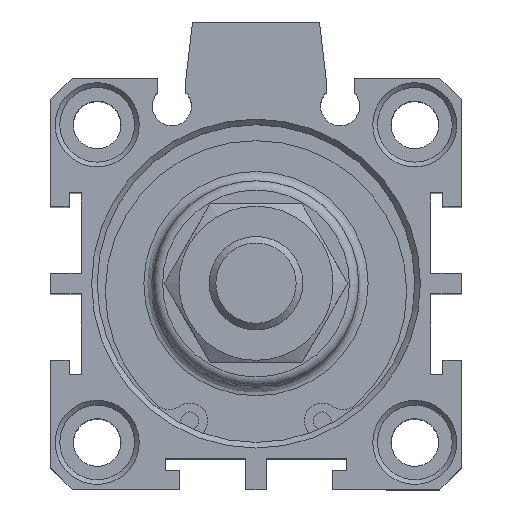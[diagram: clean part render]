
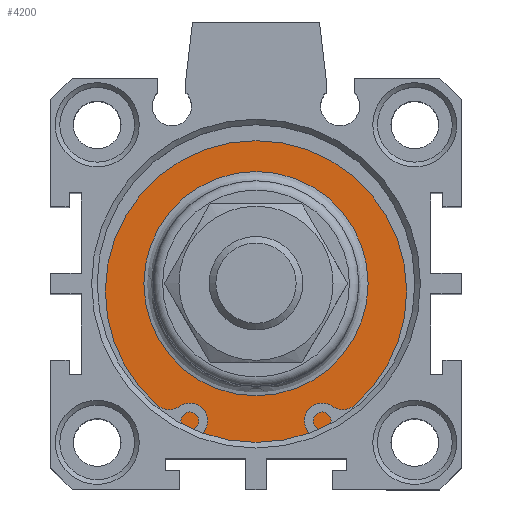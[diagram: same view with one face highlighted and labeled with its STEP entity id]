
A CAD part, top view. The second image highlights one B-rep face of the part: STEP entity #4200.
In plain terms, the highlighted planar face has unit normal (0, 0, 1).
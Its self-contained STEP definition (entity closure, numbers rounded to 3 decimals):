
#4149=CARTESIAN_POINT('',(2.273,12.598,50.8));
#4150=VERTEX_POINT('',#4149);
#4151=CARTESIAN_POINT('',(2.273,0.598,50.8));
#4152=DIRECTION('',(0.0,0.0,1.0));
#4153=DIRECTION('',(0.0,-1.0,0.0));
#4154=AXIS2_PLACEMENT_3D('',#4151,#4152,#4153);
#4155=CIRCLE('',#4154,12.0);
#4156=EDGE_CURVE('',#4150,#4150,#4155,.T.);
#4181=CARTESIAN_POINT('',(2.273,14.598,50.8));
#4182=DIRECTION('',(0.0,0.0,1.0));
#4183=DIRECTION('',(1.0,0.0,0.0));
#4184=AXIS2_PLACEMENT_3D('',#4181,#4182,#4183);
#4185=PLANE('',#4184);
#4186=CARTESIAN_POINT('',(2.273,17.598,50.8));
#4187=VERTEX_POINT('',#4186);
#4188=CARTESIAN_POINT('',(2.273,0.598,50.8));
#4189=DIRECTION('',(0.0,0.0,-1.0));
#4190=DIRECTION('',(0.0,1.0,0.0));
#4191=AXIS2_PLACEMENT_3D('',#4188,#4189,#4190);
#4192=CIRCLE('',#4191,17.);
#4193=EDGE_CURVE('',#4187,#4187,#4192,.T.);
#4194=ORIENTED_EDGE('',*,*,#4193,.F.);
#4195=EDGE_LOOP('',(#4194));
#4196=FACE_OUTER_BOUND('',#4195,.T.);
#4197=ORIENTED_EDGE('',*,*,#4156,.F.);
#4198=EDGE_LOOP('',(#4197));
#4199=FACE_BOUND('',#4198,.T.);
#4200=ADVANCED_FACE('',(#4196,#4199),#4185,.T.);
